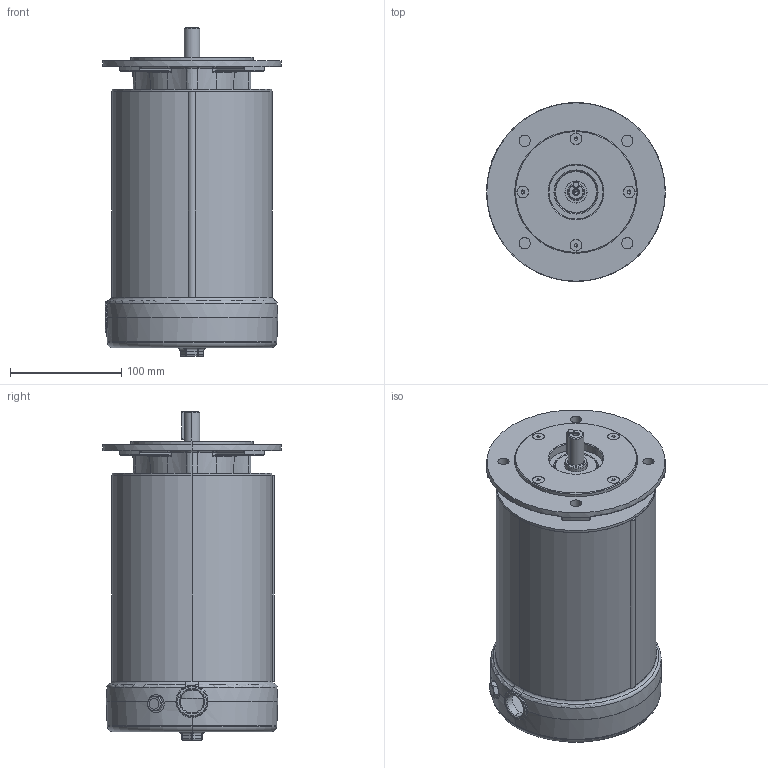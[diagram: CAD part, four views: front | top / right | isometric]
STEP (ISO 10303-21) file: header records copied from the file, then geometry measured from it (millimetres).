
FILE_DESCRIPTION (( 'STEP AP203' ), '1' );
FILE_NAME ('031989-725_Rev01.STEP', '2017-06-12T09:24:55', ( 'admin' ), ( '' ), 'SwSTEP 2.0', 'SolidWorks 2015', '' );
FILE_SCHEMA (( 'CONFIG_CONTROL_DESIGN' ));
Products named in the file (1): 031989-725_Rev01
Bounding box: 160.41 x 160.09 x 295.02 mm (x, y, z)
Volume: 768726.5 mm3; surface area: 428444.4 mm2
Topology: 14 solids, 14 shells, 1260 faces, 2913 edges, 1662 vertices
Faces by surface type: cylinder 313, torus 230, bspline 226, cone 223, plane 201, sphere 67
Entity records: 46933 total; most frequent: CARTESIAN_POINT 20112, ORIENTED_EDGE 5690, DIRECTION 5639, EDGE_CURVE 2845, AXIS2_PLACEMENT_3D 2467, VERTEX_POINT 1662, CIRCLE 1432, EDGE_LOOP 1353
